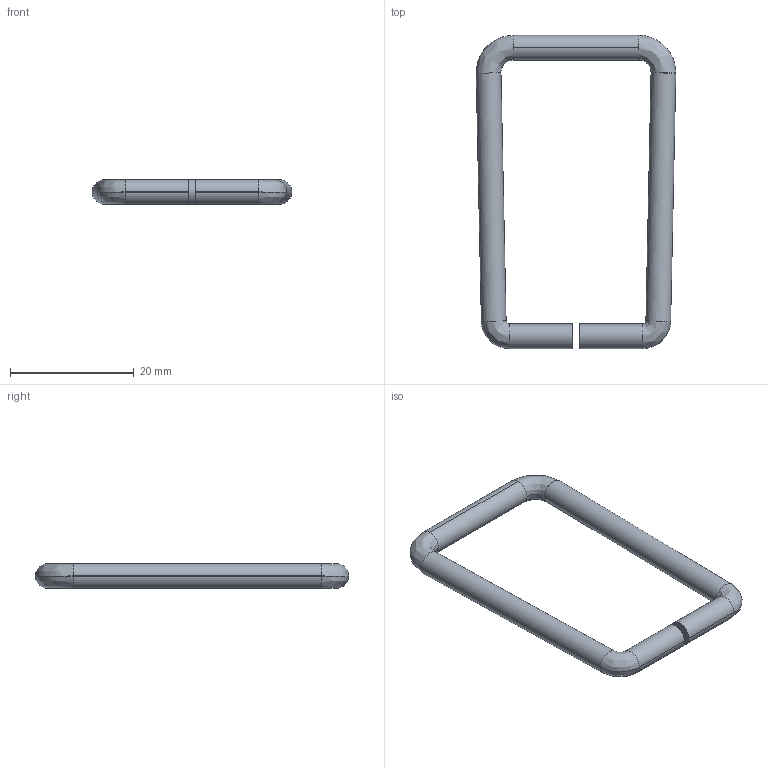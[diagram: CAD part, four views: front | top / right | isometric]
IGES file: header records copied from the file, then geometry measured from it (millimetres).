
Start section: SolidWorks IGES FILE using analytic representation for surfaces
Global section: file name: C:\Documents and Settings\lecoutey\Bureau\GO 24\24.200.01.IGS; native system: SolidWorks 2004 by SolidWorks Corporation; preprocessor: Version 5.3; author: lecoutey; date: 050329.093529; units: millimetre
Bounding box: 32.25 x 50.6 x 4 mm (x, y, z)
Surface area: 1802.9 mm2 (no closed solid volume)
Topology: 0 solids, 0 shells, 22 faces, 152 edges, 152 vertices
Faces by surface type: bspline 12, revolution 10
